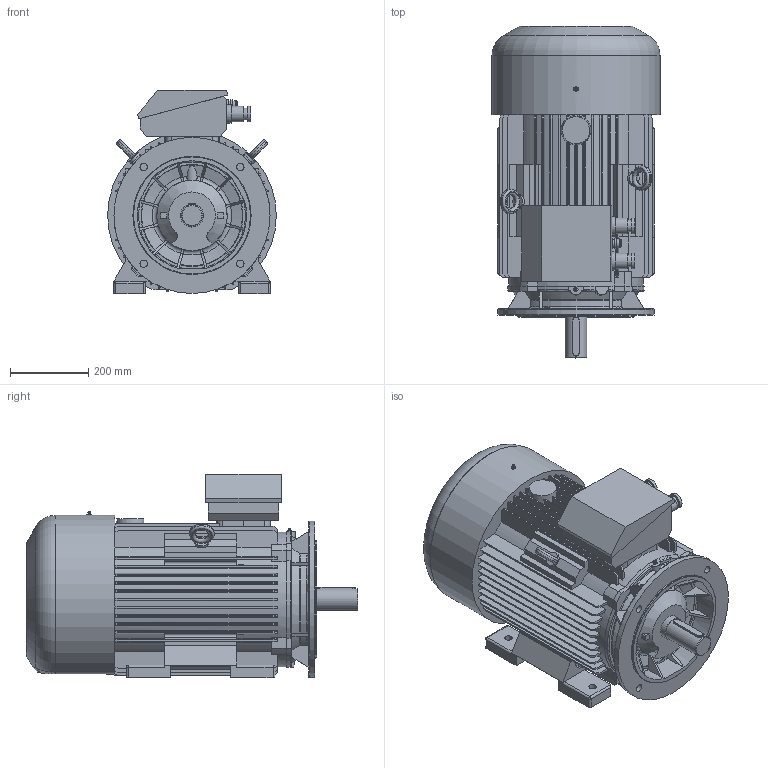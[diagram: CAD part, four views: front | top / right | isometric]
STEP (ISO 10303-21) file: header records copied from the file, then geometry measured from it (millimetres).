
FILE_DESCRIPTION( ( 'Unknown' ), '1' );
FILE_NAME( 'P:/3D_Bry³y silników skatalogowane/SIE/2SIE200/STEP/2SIEL 200 silnik.stp', 'Unknown', ( 'Unknown' ), ( 'Unknown' ), 'XStep 1.0', 'Unknown', ' ' );
FILE_SCHEMA( ( 'CONFIG_CONTROL_DESIGN' ) );
Length unit declared in the file: millimetre
Products named in the file (2): 1; 2
Bounding box: 432.02 x 850.06 x 520 mm (x, y, z)
Volume: 88027626.3 mm3; surface area: 2801117.9 mm2
Topology: 2 solids, 5 shells, 941 faces, 2655 edges, 1751 vertices
Faces by surface type: plane 652, cylinder 170, torus 81, cone 30, bspline 4, sphere 4
Full cylindrical faces by diameter (mm): 1.6 x2, 5 x5, 12.891 x1, 19 x8, 20 x1, 22.969 x1, 26.249 x1, 27 x1, 30 x4, 35 x4, 40 x4, 47 x2, 55 x1, 59.498 x1, 178 x1, 180 x1, 299.988 x1, 399.988 x1
Entity records: 33832 total; most frequent: CARTESIAN_POINT 9795, ORIENTED_EDGE 5138, DIRECTION 4726, EDGE_CURVE 2569, VERTEX_POINT 1733, LINE 1670, VECTOR 1670, AXIS2_PLACEMENT_3D 1528
